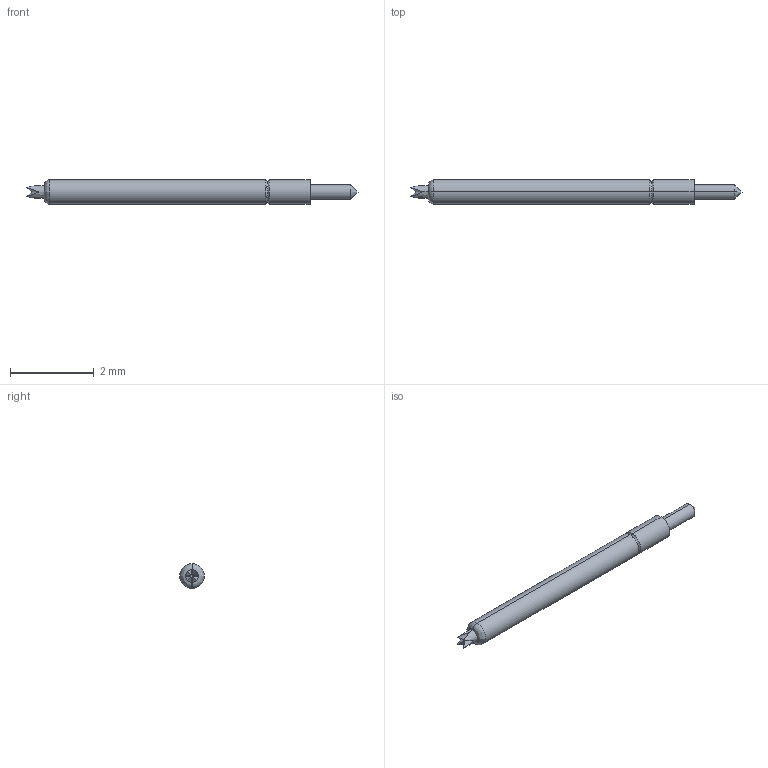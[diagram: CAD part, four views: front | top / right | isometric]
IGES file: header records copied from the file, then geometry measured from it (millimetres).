
Start section: SolidWorks IGES file using analytic representation for surfaces
Global section: file name: Z:\probe solid model mockups\Solidworks models\IGES Files\CSP8-25 IGES files\CSP8-25BL RECD.IGS; native system: SolidWorks 2006 by SolidWorks Corporation; preprocessor: SolidWorks 2006 by SolidWorks Corporation; author: tsakatani; date: 080108.153711; units: inch
Bounding box: 7.92 x 0.58 x 0.58 mm (x, y, z)
Surface area: 13.7 mm2 (no closed solid volume)
Topology: 0 solids, 0 shells, 25 faces, 142 edges, 140 vertices
Faces by surface type: bspline 15, revolution 10
